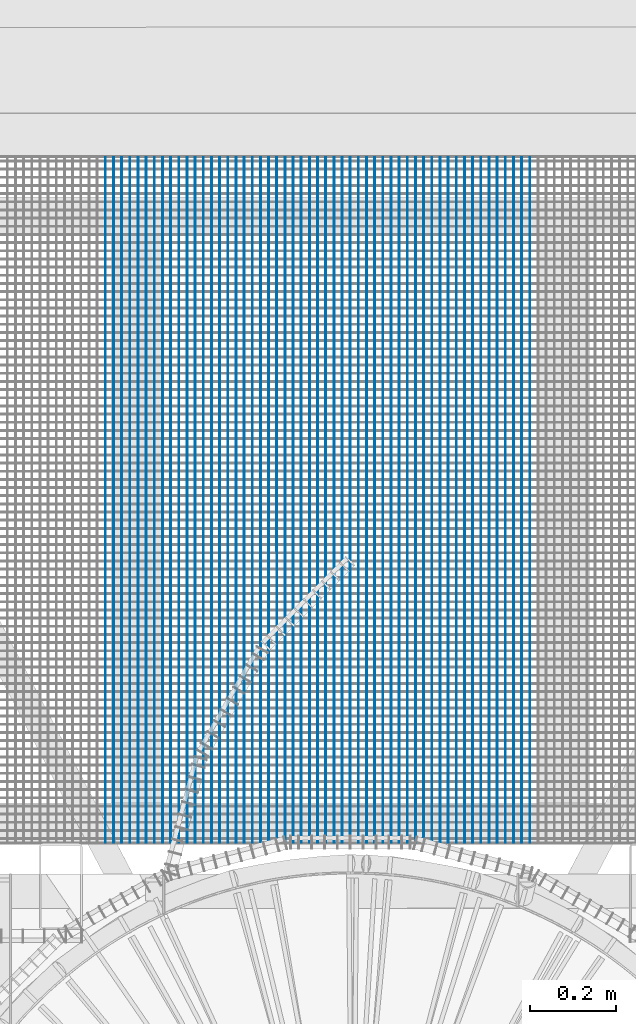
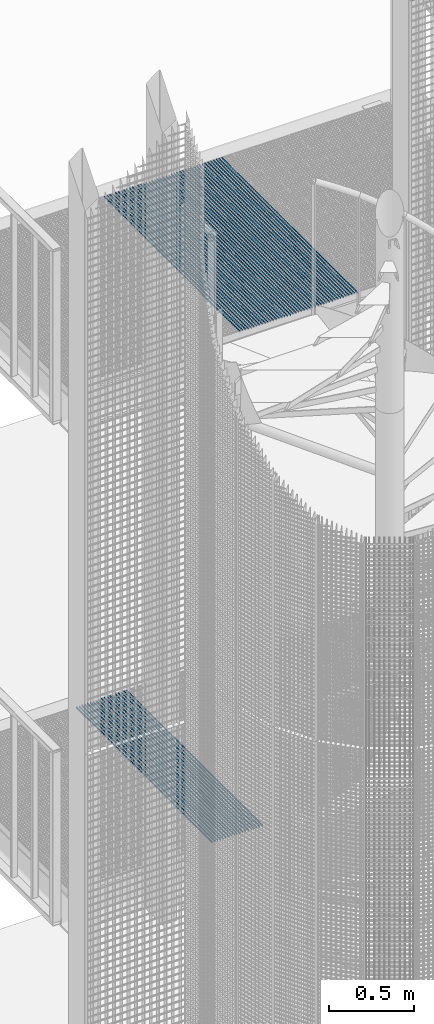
# One storey, part 82 of 1148: 62 beams, 2 elements without a shape of their own.
"""IFC2X3 building model written with IfcOpenShell, lengths in millimetres."""

from ifc_helpers import new_model, si_unit, frame, origin_with_axes, origin_2d_with_axis, place, context, subcontext, project, spatial, rectangle, extrude, material, type_object, element, aggregate, save


model = new_model("IFC2X3")

# Units and contexts
model_context = context("Model", 3, precision=1e-05, world=origin_with_axes())
body_context = subcontext(model_context, "Body", "Model", "MODEL_VIEW")
ifc_project = project(units=[si_unit("LENGTHUNIT", "METRE", prefix="MILLI"), si_unit("AREAUNIT", "SQUARE_METRE"), si_unit("VOLUMEUNIT", "CUBIC_METRE"), si_unit("MASSUNIT", "GRAM", prefix="KILO"), si_unit("TIMEUNIT", "SECOND"), si_unit("PLANEANGLEUNIT", "RADIAN"), si_unit("SOLIDANGLEUNIT", "STERADIAN"), si_unit("THERMODYNAMICTEMPERATUREUNIT", "DEGREE_CELSIUS"), si_unit("LUMINOUSINTENSITYUNIT", "LUMEN")], contexts=[model_context])

# Site, building, storey
site_placement = place(None, origin_with_axes())
site = spatial("IfcSite", under=ifc_project, at=site_placement, Name="Undefined", CompositionType="ELEMENT")
building_placement = place(site_placement, origin_with_axes())
building = spatial("IfcBuilding", under=site, at=building_placement, Name="Undefined", CompositionType="ELEMENT")
storey_placement = place(building_placement, origin_with_axes())
storey = spatial("IfcBuildingStorey", under=building, at=storey_placement, Name="Undefined", CompositionType="ELEMENT", Elevation=0.0)

# Assembly, beams
assembly_1_placement = place(storey_placement, origin_with_axes())
assembly_1 = element("IfcElementAssembly", 1, at=assembly_1_placement, inside=storey, Name="BORDURE", AssemblyPlace="NOTDEFINED", PredefinedType="NOTDEFINED")
ifc_material = material(Name="STEEL/S235JR")
beam_type = type_object("IfcBeamType", Name="PL2*10", PredefinedType="NOTDEFINED")
beam_1_placement = place(assembly_1_placement, frame((-379.92457526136, 1102.00044866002, 13685.0), z_axis=(0.0, 0.0, 1.0), x_axis=(-4.50599999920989e-06, 0.999999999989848, 0.0)))
beam_1 = element("IfcBeam", 2, at=beam_1_placement, type_object=beam_type, material=ifc_material, Name="ENTRETOISE", context=body_context, shape_type="SweptSolid", body=[
    extrude(rectangle(XDim=2.0, YDim=10.0, at=origin_2d_with_axis()), frame((1596.0000000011, -1.35186458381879e-18, -7.27595761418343e-12), z_axis=(-1.0, 0.0, 0.0), x_axis=(0.0, -1.0, 0.0)), (0.0, 0.0, 1.0), 1596.0),
])
beam_2_placement = place(assembly_1_placement, frame((-360.924575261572, 1102.00054217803, 13685.0), z_axis=(0.0, 0.0, 1.0), x_axis=(-4.50599999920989e-06, 0.999999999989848, 0.0)))
beam_2 = element("IfcBeam", 3, at=beam_2_placement, type_object=beam_type, material=ifc_material, Name="ENTRETOISE", context=body_context, shape_type="SweptSolid", body=[
    extrude(rectangle(XDim=2.0, YDim=10.0, at=origin_2d_with_axis()), frame((1596.0000000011, -1.35186458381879e-18, -7.27595761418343e-12), z_axis=(-1.0, 0.0, 0.0), x_axis=(0.0, -1.0, 0.0)), (0.0, 0.0, 1.0), 1596.0),
])
beam_3_placement = place(assembly_1_placement, frame((-341.924575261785, 1102.00063569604, 13685.0), z_axis=(0.0, 0.0, 1.0), x_axis=(-4.50599999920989e-06, 0.999999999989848, 0.0)))
beam_3 = element("IfcBeam", 4, at=beam_3_placement, type_object=beam_type, material=ifc_material, Name="ENTRETOISE", context=body_context, shape_type="SweptSolid", body=[
    extrude(rectangle(XDim=2.0, YDim=10.0, at=origin_2d_with_axis()), frame((1596.0000000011, -1.35186458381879e-18, -7.27595761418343e-12), z_axis=(-1.0, 0.0, 0.0), x_axis=(0.0, -1.0, 0.0)), (0.0, 0.0, 1.0), 1596.0),
])
beam_4_placement = place(assembly_1_placement, frame((-322.924575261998, 1102.00072921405, 13685.0), z_axis=(0.0, 0.0, 1.0), x_axis=(-4.50599999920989e-06, 0.999999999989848, 0.0)))
beam_4 = element("IfcBeam", 5, at=beam_4_placement, type_object=beam_type, material=ifc_material, Name="ENTRETOISE", context=body_context, shape_type="SweptSolid", body=[
    extrude(rectangle(XDim=2.0, YDim=10.0, at=origin_2d_with_axis()), frame((1596.0000000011, -1.35186458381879e-18, -7.27595761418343e-12), z_axis=(-1.0, 0.0, 0.0), x_axis=(0.0, -1.0, 0.0)), (0.0, 0.0, 1.0), 1596.0),
])
beam_5_placement = place(assembly_1_placement, frame((-303.924575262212, 1102.00082273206, 13685.0), z_axis=(0.0, 0.0, 1.0), x_axis=(-4.50599999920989e-06, 0.999999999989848, 0.0)))
beam_5 = element("IfcBeam", 6, at=beam_5_placement, type_object=beam_type, material=ifc_material, Name="ENTRETOISE", context=body_context, shape_type="SweptSolid", body=[
    extrude(rectangle(XDim=2.0, YDim=10.0, at=origin_2d_with_axis()), frame((1596.0000000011, -1.35186458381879e-18, -7.27595761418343e-12), z_axis=(-1.0, 0.0, 0.0), x_axis=(0.0, -1.0, 0.0)), (0.0, 0.0, 1.0), 1596.0),
])
beam_6_placement = place(assembly_1_placement, frame((-284.924575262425, 1102.00091625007, 13685.0), z_axis=(0.0, 0.0, 1.0), x_axis=(-4.50599999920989e-06, 0.999999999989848, 0.0)))
beam_6 = element("IfcBeam", 7, at=beam_6_placement, type_object=beam_type, material=ifc_material, Name="ENTRETOISE", context=body_context, shape_type="SweptSolid", body=[
    extrude(rectangle(XDim=2.0, YDim=10.0, at=origin_2d_with_axis()), frame((1596.0000000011, -1.35186458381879e-18, -7.27595761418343e-12), z_axis=(-1.0, 0.0, 0.0), x_axis=(0.0, -1.0, 0.0)), (0.0, 0.0, 1.0), 1596.0),
])
beam_7_placement = place(assembly_1_placement, frame((-265.924575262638, 1102.00100976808, 13685.0), z_axis=(0.0, 0.0, 1.0), x_axis=(-4.50599999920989e-06, 0.999999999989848, 0.0)))
beam_7 = element("IfcBeam", 8, at=beam_7_placement, type_object=beam_type, material=ifc_material, Name="ENTRETOISE", context=body_context, shape_type="SweptSolid", body=[
    extrude(rectangle(XDim=2.0, YDim=10.0, at=origin_2d_with_axis()), frame((1596.0000000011, -1.35186458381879e-18, -7.27595761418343e-12), z_axis=(-1.0, 0.0, 0.0), x_axis=(0.0, -1.0, 0.0)), (0.0, 0.0, 1.0), 1596.0),
])
beam_8_placement = place(assembly_1_placement, frame((-246.924575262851, 1102.00110328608, 13685.0), z_axis=(0.0, 0.0, 1.0), x_axis=(-4.50599999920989e-06, 0.999999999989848, 0.0)))
beam_8 = element("IfcBeam", 9, at=beam_8_placement, type_object=beam_type, material=ifc_material, Name="ENTRETOISE", context=body_context, shape_type="SweptSolid", body=[
    extrude(rectangle(XDim=2.0, YDim=10.0, at=origin_2d_with_axis()), frame((1596.0000000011, -1.35186458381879e-18, -7.27595761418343e-12), z_axis=(-1.0, 0.0, 0.0), x_axis=(0.0, -1.0, 0.0)), (0.0, 0.0, 1.0), 1596.0),
])
beam_9_placement = place(assembly_1_placement, frame((-227.924575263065, 1102.00119680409, 13685.0), z_axis=(0.0, 0.0, 1.0), x_axis=(-4.50599999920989e-06, 0.999999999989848, 0.0)))
beam_9 = element("IfcBeam", 10, at=beam_9_placement, type_object=beam_type, material=ifc_material, Name="ENTRETOISE", context=body_context, shape_type="SweptSolid", body=[
    extrude(rectangle(XDim=2.0, YDim=10.0, at=origin_2d_with_axis()), frame((1596.0000000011, -1.35186458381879e-18, -7.27595761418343e-12), z_axis=(-1.0, 0.0, 0.0), x_axis=(0.0, -1.0, 0.0)), (0.0, 0.0, 1.0), 1596.0),
])
beam_10_placement = place(assembly_1_placement, frame((-208.924575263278, 1102.0012903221, 13685.0), z_axis=(0.0, 0.0, 1.0), x_axis=(-4.50599999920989e-06, 0.999999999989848, 0.0)))
beam_10 = element("IfcBeam", 11, at=beam_10_placement, type_object=beam_type, material=ifc_material, Name="ENTRETOISE", context=body_context, shape_type="SweptSolid", body=[
    extrude(rectangle(XDim=2.0, YDim=10.0, at=origin_2d_with_axis()), frame((1596.0000000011, -1.35186458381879e-18, -7.27595761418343e-12), z_axis=(-1.0, 0.0, 0.0), x_axis=(0.0, -1.0, 0.0)), (0.0, 0.0, 1.0), 1596.0),
])
beam_11_placement = place(assembly_1_placement, frame((-189.924575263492, 1102.00138384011, 13685.0), z_axis=(0.0, 0.0, 1.0), x_axis=(-4.50599999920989e-06, 0.999999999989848, 0.0)))
beam_11 = element("IfcBeam", 12, at=beam_11_placement, type_object=beam_type, material=ifc_material, Name="ENTRETOISE", context=body_context, shape_type="SweptSolid", body=[
    extrude(rectangle(XDim=2.0, YDim=10.0, at=origin_2d_with_axis()), frame((1596.0000000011, -1.35186458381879e-18, -7.27595761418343e-12), z_axis=(-1.0, 0.0, 0.0), x_axis=(0.0, -1.0, 0.0)), (0.0, 0.0, 1.0), 1596.0),
])
beam_12_placement = place(assembly_1_placement, frame((-170.924575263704, 1102.00147735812, 13685.0), z_axis=(0.0, 0.0, 1.0), x_axis=(-4.50599999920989e-06, 0.999999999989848, 0.0)))
beam_12 = element("IfcBeam", 13, at=beam_12_placement, type_object=beam_type, material=ifc_material, Name="ENTRETOISE", context=body_context, shape_type="SweptSolid", body=[
    extrude(rectangle(XDim=2.0, YDim=10.0, at=origin_2d_with_axis()), frame((1596.0000000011, -1.35186458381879e-18, -7.27595761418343e-12), z_axis=(-1.0, 0.0, 0.0), x_axis=(0.0, -1.0, 0.0)), (0.0, 0.0, 1.0), 1596.0),
])
beam_13_placement = place(assembly_1_placement, frame((-151.924575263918, 1102.00157087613, 13685.0), z_axis=(0.0, 0.0, 1.0), x_axis=(-4.50599999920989e-06, 0.999999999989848, 0.0)))
beam_13 = element("IfcBeam", 14, at=beam_13_placement, type_object=beam_type, material=ifc_material, Name="ENTRETOISE", context=body_context, shape_type="SweptSolid", body=[
    extrude(rectangle(XDim=2.0, YDim=10.0, at=origin_2d_with_axis()), frame((1596.0000000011, -1.35186458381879e-18, -7.27595761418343e-12), z_axis=(-1.0, 0.0, 0.0), x_axis=(0.0, -1.0, 0.0)), (0.0, 0.0, 1.0), 1596.0),
])
beam_14_placement = place(assembly_1_placement, frame((-132.92457526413, 1102.00166439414, 13685.0), z_axis=(0.0, 0.0, 1.0), x_axis=(-4.50599999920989e-06, 0.999999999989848, 0.0)))
beam_14 = element("IfcBeam", 15, at=beam_14_placement, type_object=beam_type, material=ifc_material, Name="ENTRETOISE", context=body_context, shape_type="SweptSolid", body=[
    extrude(rectangle(XDim=2.0, YDim=10.0, at=origin_2d_with_axis()), frame((1596.0000000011, -1.35186458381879e-18, -7.27595761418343e-12), z_axis=(-1.0, 0.0, 0.0), x_axis=(0.0, -1.0, 0.0)), (0.0, 0.0, 1.0), 1596.0),
])
beam_15_placement = place(assembly_1_placement, frame((-113.924575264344, 1102.00175791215, 13685.0), z_axis=(0.0, 0.0, 1.0), x_axis=(-4.50599999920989e-06, 0.999999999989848, 0.0)))
beam_15 = element("IfcBeam", 16, at=beam_15_placement, type_object=beam_type, material=ifc_material, Name="ENTRETOISE", context=body_context, shape_type="SweptSolid", body=[
    extrude(rectangle(XDim=2.0, YDim=10.0, at=origin_2d_with_axis()), frame((1596.0000000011, -1.35186458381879e-18, -7.27595761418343e-12), z_axis=(-1.0, 0.0, 0.0), x_axis=(0.0, -1.0, 0.0)), (0.0, 0.0, 1.0), 1596.0),
])
beam_16_placement = place(assembly_1_placement, frame((-94.9245752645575, 1102.00185143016, 13685.0), z_axis=(0.0, 0.0, 1.0), x_axis=(-4.50599999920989e-06, 0.999999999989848, 0.0)))
beam_16 = element("IfcBeam", 17, at=beam_16_placement, type_object=beam_type, material=ifc_material, Name="ENTRETOISE", context=body_context, shape_type="SweptSolid", body=[
    extrude(rectangle(XDim=2.0, YDim=10.0, at=origin_2d_with_axis()), frame((1596.0000000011, -1.35186458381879e-18, -7.27595761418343e-12), z_axis=(-1.0, 0.0, 0.0), x_axis=(0.0, -1.0, 0.0)), (0.0, 0.0, 1.0), 1596.0),
])
beam_17_placement = place(assembly_1_placement, frame((-75.9245752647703, 1102.00194494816, 13685.0), z_axis=(0.0, 0.0, 1.0), x_axis=(-4.50599999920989e-06, 0.999999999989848, 0.0)))
beam_17 = element("IfcBeam", 18, at=beam_17_placement, type_object=beam_type, material=ifc_material, Name="ENTRETOISE", context=body_context, shape_type="SweptSolid", body=[
    extrude(rectangle(XDim=2.0, YDim=10.0, at=origin_2d_with_axis()), frame((1596.0000000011, -1.35186458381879e-18, -7.27595761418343e-12), z_axis=(-1.0, 0.0, 0.0), x_axis=(0.0, -1.0, 0.0)), (0.0, 0.0, 1.0), 1596.0),
])
beam_18_placement = place(assembly_1_placement, frame((-56.924575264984, 1102.00203846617, 13685.0), z_axis=(0.0, 0.0, 1.0), x_axis=(-4.50599999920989e-06, 0.999999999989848, 0.0)))
beam_18 = element("IfcBeam", 19, at=beam_18_placement, type_object=beam_type, material=ifc_material, Name="ENTRETOISE", context=body_context, shape_type="SweptSolid", body=[
    extrude(rectangle(XDim=2.0, YDim=10.0, at=origin_2d_with_axis()), frame((1596.0000000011, -1.35186458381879e-18, -7.27595761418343e-12), z_axis=(-1.0, 0.0, 0.0), x_axis=(0.0, -1.0, 0.0)), (0.0, 0.0, 1.0), 1596.0),
])
beam_19_placement = place(assembly_1_placement, frame((-37.9245752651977, 1102.00213198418, 13685.0), z_axis=(0.0, 0.0, 1.0), x_axis=(-4.50599999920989e-06, 0.999999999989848, 0.0)))
beam_19 = element("IfcBeam", 20, at=beam_19_placement, type_object=beam_type, material=ifc_material, Name="ENTRETOISE", context=body_context, shape_type="SweptSolid", body=[
    extrude(rectangle(XDim=2.0, YDim=10.0, at=origin_2d_with_axis()), frame((1596.0000000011, -1.35186458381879e-18, -7.27595761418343e-12), z_axis=(-1.0, 0.0, 0.0), x_axis=(0.0, -1.0, 0.0)), (0.0, 0.0, 1.0), 1596.0),
])
beam_20_placement = place(assembly_1_placement, frame((-18.9245752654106, 1102.00222550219, 13685.0), z_axis=(0.0, 0.0, 1.0), x_axis=(-4.50599999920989e-06, 0.999999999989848, 0.0)))
beam_20 = element("IfcBeam", 21, at=beam_20_placement, type_object=beam_type, material=ifc_material, Name="ENTRETOISE", context=body_context, shape_type="SweptSolid", body=[
    extrude(rectangle(XDim=2.0, YDim=10.0, at=origin_2d_with_axis()), frame((1596.0000000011, -1.35186458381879e-18, -7.27595761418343e-12), z_axis=(-1.0, 0.0, 0.0), x_axis=(0.0, -1.0, 0.0)), (0.0, 0.0, 1.0), 1596.0),
])
beam_21_placement = place(assembly_1_placement, frame((0.075424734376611, 1102.0023190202, 13685.0), z_axis=(0.0, 0.0, 1.0), x_axis=(-4.50599999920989e-06, 0.999999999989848, 0.0)))
beam_21 = element("IfcBeam", 22, at=beam_21_placement, type_object=beam_type, material=ifc_material, Name="ENTRETOISE", context=body_context, shape_type="SweptSolid", body=[
    extrude(rectangle(XDim=2.0, YDim=10.0, at=origin_2d_with_axis()), frame((1596.0000000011, -1.35186458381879e-18, -7.27595761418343e-12), z_axis=(-1.0, 0.0, 0.0), x_axis=(0.0, -1.0, 0.0)), (0.0, 0.0, 1.0), 1596.0),
])
beam_22_placement = place(assembly_1_placement, frame((19.0754247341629, 1102.00241253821, 13685.0), z_axis=(0.0, 0.0, 1.0), x_axis=(-4.50599999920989e-06, 0.999999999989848, 0.0)))
beam_22 = element("IfcBeam", 23, at=beam_22_placement, type_object=beam_type, material=ifc_material, Name="ENTRETOISE", context=body_context, shape_type="SweptSolid", body=[
    extrude(rectangle(XDim=2.0, YDim=10.0, at=origin_2d_with_axis()), frame((1596.0000000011, -1.35186458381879e-18, -7.27595761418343e-12), z_axis=(-1.0, 0.0, 0.0), x_axis=(0.0, -1.0, 0.0)), (0.0, 0.0, 1.0), 1596.0),
])
beam_23_placement = place(assembly_1_placement, frame((38.0754247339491, 1102.00250605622, 13685.0), z_axis=(0.0, 0.0, 1.0), x_axis=(-4.50599999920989e-06, 0.999999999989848, 0.0)))
beam_23 = element("IfcBeam", 24, at=beam_23_placement, type_object=beam_type, material=ifc_material, Name="ENTRETOISE", context=body_context, shape_type="SweptSolid", body=[
    extrude(rectangle(XDim=2.0, YDim=10.0, at=origin_2d_with_axis()), frame((1596.0000000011, -1.35186458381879e-18, -7.27595761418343e-12), z_axis=(-1.0, 0.0, 0.0), x_axis=(0.0, -1.0, 0.0)), (0.0, 0.0, 1.0), 1596.0),
])
beam_24_placement = place(assembly_1_placement, frame((57.0754247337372, 1102.00259957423, 13685.0), z_axis=(0.0, 0.0, 1.0), x_axis=(-4.50599999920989e-06, 0.999999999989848, 0.0)))
beam_24 = element("IfcBeam", 25, at=beam_24_placement, type_object=beam_type, material=ifc_material, Name="ENTRETOISE", context=body_context, shape_type="SweptSolid", body=[
    extrude(rectangle(XDim=2.0, YDim=10.0, at=origin_2d_with_axis()), frame((1596.0000000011, -1.35186458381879e-18, -7.27595761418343e-12), z_axis=(-1.0, 0.0, 0.0), x_axis=(0.0, -1.0, 0.0)), (0.0, 0.0, 1.0), 1596.0),
])
beam_25_placement = place(assembly_1_placement, frame((76.0754247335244, 1102.00269309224, 13685.0), z_axis=(0.0, 0.0, 1.0), x_axis=(-4.50599999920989e-06, 0.999999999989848, 0.0)))
beam_25 = element("IfcBeam", 26, at=beam_25_placement, type_object=beam_type, material=ifc_material, Name="ENTRETOISE", context=body_context, shape_type="SweptSolid", body=[
    extrude(rectangle(XDim=2.0, YDim=10.0, at=origin_2d_with_axis()), frame((1596.0000000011, -1.35186458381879e-18, -7.27595761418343e-12), z_axis=(-1.0, 0.0, 0.0), x_axis=(0.0, -1.0, 0.0)), (0.0, 0.0, 1.0), 1596.0),
])
beam_26_placement = place(assembly_1_placement, frame((95.0754247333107, 1102.00278661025, 13685.0), z_axis=(0.0, 0.0, 1.0), x_axis=(-4.50599999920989e-06, 0.999999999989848, 0.0)))
beam_26 = element("IfcBeam", 27, at=beam_26_placement, type_object=beam_type, material=ifc_material, Name="ENTRETOISE", context=body_context, shape_type="SweptSolid", body=[
    extrude(rectangle(XDim=2.0, YDim=10.0, at=origin_2d_with_axis()), frame((1596.0000000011, -1.35186458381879e-18, -7.27595761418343e-12), z_axis=(-1.0, 0.0, 0.0), x_axis=(0.0, -1.0, 0.0)), (0.0, 0.0, 1.0), 1596.0),
])
beam_27_placement = place(assembly_1_placement, frame((114.075424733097, 1102.00288012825, 13685.0), z_axis=(0.0, 0.0, 1.0), x_axis=(-4.50599999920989e-06, 0.999999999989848, 0.0)))
beam_27 = element("IfcBeam", 28, at=beam_27_placement, type_object=beam_type, material=ifc_material, Name="ENTRETOISE", context=body_context, shape_type="SweptSolid", body=[
    extrude(rectangle(XDim=2.0, YDim=10.0, at=origin_2d_with_axis()), frame((1596.0000000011, -1.35186458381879e-18, -7.27595761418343e-12), z_axis=(-1.0, 0.0, 0.0), x_axis=(0.0, -1.0, 0.0)), (0.0, 0.0, 1.0), 1596.0),
])
beam_28_placement = place(assembly_1_placement, frame((133.075424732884, 1102.00297364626, 13685.0), z_axis=(0.0, 0.0, 1.0), x_axis=(-4.50599999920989e-06, 0.999999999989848, 0.0)))
beam_28 = element("IfcBeam", 29, at=beam_28_placement, type_object=beam_type, material=ifc_material, Name="ENTRETOISE", context=body_context, shape_type="SweptSolid", body=[
    extrude(rectangle(XDim=2.0, YDim=10.0, at=origin_2d_with_axis()), frame((1596.0000000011, -1.35186458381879e-18, -7.27595761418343e-12), z_axis=(-1.0, 0.0, 0.0), x_axis=(0.0, -1.0, 0.0)), (0.0, 0.0, 1.0), 1596.0),
])
beam_29_placement = place(assembly_1_placement, frame((152.07542473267, 1102.00306716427, 13685.0), z_axis=(0.0, 0.0, 1.0), x_axis=(-4.50599999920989e-06, 0.999999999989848, 0.0)))
beam_29 = element("IfcBeam", 30, at=beam_29_placement, type_object=beam_type, material=ifc_material, Name="ENTRETOISE", context=body_context, shape_type="SweptSolid", body=[
    extrude(rectangle(XDim=2.0, YDim=10.0, at=origin_2d_with_axis()), frame((1596.0000000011, -1.35186458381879e-18, -7.27595761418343e-12), z_axis=(-1.0, 0.0, 0.0), x_axis=(0.0, -1.0, 0.0)), (0.0, 0.0, 1.0), 1596.0),
])
beam_30_placement = place(assembly_1_placement, frame((171.075424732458, 1102.00316068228, 13685.0), z_axis=(0.0, 0.0, 1.0), x_axis=(-4.50599999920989e-06, 0.999999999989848, 0.0)))
beam_30 = element("IfcBeam", 31, at=beam_30_placement, type_object=beam_type, material=ifc_material, Name="ENTRETOISE", context=body_context, shape_type="SweptSolid", body=[
    extrude(rectangle(XDim=2.0, YDim=10.0, at=origin_2d_with_axis()), frame((1596.0000000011, -1.35186458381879e-18, -7.27595761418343e-12), z_axis=(-1.0, 0.0, 0.0), x_axis=(0.0, -1.0, 0.0)), (0.0, 0.0, 1.0), 1596.0),
])
beam_31_placement = place(assembly_1_placement, frame((190.075424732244, 1102.00325420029, 13685.0), z_axis=(0.0, 0.0, 1.0), x_axis=(-4.50599999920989e-06, 0.999999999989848, 0.0)))
beam_31 = element("IfcBeam", 32, at=beam_31_placement, type_object=beam_type, material=ifc_material, Name="ENTRETOISE", context=body_context, shape_type="SweptSolid", body=[
    extrude(rectangle(XDim=2.0, YDim=10.0, at=origin_2d_with_axis()), frame((1596.0000000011, -1.35186458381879e-18, -7.27595761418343e-12), z_axis=(-1.0, 0.0, 0.0), x_axis=(0.0, -1.0, 0.0)), (0.0, 0.0, 1.0), 1596.0),
])
beam_32_placement = place(assembly_1_placement, frame((209.075424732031, 1102.0033477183, 13685.0), z_axis=(0.0, 0.0, 1.0), x_axis=(-4.50599999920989e-06, 0.999999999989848, 0.0)))
beam_32 = element("IfcBeam", 33, at=beam_32_placement, type_object=beam_type, material=ifc_material, Name="ENTRETOISE", context=body_context, shape_type="SweptSolid", body=[
    extrude(rectangle(XDim=2.0, YDim=10.0, at=origin_2d_with_axis()), frame((1596.0000000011, -1.35186458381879e-18, -7.27595761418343e-12), z_axis=(-1.0, 0.0, 0.0), x_axis=(0.0, -1.0, 0.0)), (0.0, 0.0, 1.0), 1596.0),
])
beam_33_placement = place(assembly_1_placement, frame((228.075424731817, 1102.00344123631, 13685.0), z_axis=(0.0, 0.0, 1.0), x_axis=(-4.50599999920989e-06, 0.999999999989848, 0.0)))
beam_33 = element("IfcBeam", 34, at=beam_33_placement, type_object=beam_type, material=ifc_material, Name="ENTRETOISE", context=body_context, shape_type="SweptSolid", body=[
    extrude(rectangle(XDim=2.0, YDim=10.0, at=origin_2d_with_axis()), frame((1596.0000000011, -1.35186458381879e-18, -7.27595761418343e-12), z_axis=(-1.0, 0.0, 0.0), x_axis=(0.0, -1.0, 0.0)), (0.0, 0.0, 1.0), 1596.0),
])
beam_34_placement = place(assembly_1_placement, frame((247.075424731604, 1102.00353475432, 13685.0), z_axis=(0.0, 0.0, 1.0), x_axis=(-4.50599999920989e-06, 0.999999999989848, 0.0)))
beam_34 = element("IfcBeam", 35, at=beam_34_placement, type_object=beam_type, material=ifc_material, Name="ENTRETOISE", context=body_context, shape_type="SweptSolid", body=[
    extrude(rectangle(XDim=2.0, YDim=10.0, at=origin_2d_with_axis()), frame((1596.0000000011, -1.35186458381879e-18, -7.27595761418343e-12), z_axis=(-1.0, 0.0, 0.0), x_axis=(0.0, -1.0, 0.0)), (0.0, 0.0, 1.0), 1596.0),
])
beam_35_placement = place(assembly_1_placement, frame((266.075424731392, 1102.00362827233, 13685.0), z_axis=(0.0, 0.0, 1.0), x_axis=(-4.50599999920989e-06, 0.999999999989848, 0.0)))
beam_35 = element("IfcBeam", 36, at=beam_35_placement, type_object=beam_type, material=ifc_material, Name="ENTRETOISE", context=body_context, shape_type="SweptSolid", body=[
    extrude(rectangle(XDim=2.0, YDim=10.0, at=origin_2d_with_axis()), frame((1596.0000000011, -1.35186458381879e-18, -7.27595761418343e-12), z_axis=(-1.0, 0.0, 0.0), x_axis=(0.0, -1.0, 0.0)), (0.0, 0.0, 1.0), 1596.0),
])
beam_36_placement = place(assembly_1_placement, frame((285.075424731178, 1102.00372179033, 13685.0), z_axis=(0.0, 0.0, 1.0), x_axis=(-4.50599999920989e-06, 0.999999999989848, 0.0)))
beam_36 = element("IfcBeam", 37, at=beam_36_placement, type_object=beam_type, material=ifc_material, Name="ENTRETOISE", context=body_context, shape_type="SweptSolid", body=[
    extrude(rectangle(XDim=2.0, YDim=10.0, at=origin_2d_with_axis()), frame((1596.0000000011, -1.35186458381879e-18, -7.27595761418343e-12), z_axis=(-1.0, 0.0, 0.0), x_axis=(0.0, -1.0, 0.0)), (0.0, 0.0, 1.0), 1596.0),
])
beam_37_placement = place(assembly_1_placement, frame((304.075424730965, 1102.00381530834, 13685.0), z_axis=(0.0, 0.0, 1.0), x_axis=(-4.50599999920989e-06, 0.999999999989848, 0.0)))
beam_37 = element("IfcBeam", 38, at=beam_37_placement, type_object=beam_type, material=ifc_material, Name="ENTRETOISE", context=body_context, shape_type="SweptSolid", body=[
    extrude(rectangle(XDim=2.0, YDim=10.0, at=origin_2d_with_axis()), frame((1596.0000000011, -1.35186458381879e-18, -7.27595761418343e-12), z_axis=(-1.0, 0.0, 0.0), x_axis=(0.0, -1.0, 0.0)), (0.0, 0.0, 1.0), 1596.0),
])
beam_38_placement = place(assembly_1_placement, frame((323.075424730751, 1102.00390882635, 13685.0), z_axis=(0.0, 0.0, 1.0), x_axis=(-4.50599999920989e-06, 0.999999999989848, 0.0)))
beam_38 = element("IfcBeam", 39, at=beam_38_placement, type_object=beam_type, material=ifc_material, Name="ENTRETOISE", context=body_context, shape_type="SweptSolid", body=[
    extrude(rectangle(XDim=2.0, YDim=10.0, at=origin_2d_with_axis()), frame((1596.0000000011, -1.35186458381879e-18, -7.27595761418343e-12), z_axis=(-1.0, 0.0, 0.0), x_axis=(0.0, -1.0, 0.0)), (0.0, 0.0, 1.0), 1596.0),
])
beam_39_placement = place(assembly_1_placement, frame((342.075424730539, 1102.00400234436, 13685.0), z_axis=(0.0, 0.0, 1.0), x_axis=(-4.50599999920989e-06, 0.999999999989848, 0.0)))
beam_39 = element("IfcBeam", 40, at=beam_39_placement, type_object=beam_type, material=ifc_material, Name="ENTRETOISE", context=body_context, shape_type="SweptSolid", body=[
    extrude(rectangle(XDim=2.0, YDim=10.0, at=origin_2d_with_axis()), frame((1596.0000000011, -1.35186458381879e-18, -7.27595761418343e-12), z_axis=(-1.0, 0.0, 0.0), x_axis=(0.0, -1.0, 0.0)), (0.0, 0.0, 1.0), 1596.0),
])
beam_40_placement = place(assembly_1_placement, frame((361.075424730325, 1102.00409586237, 13685.0), z_axis=(0.0, 0.0, 1.0), x_axis=(-4.50599999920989e-06, 0.999999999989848, 0.0)))
beam_40 = element("IfcBeam", 41, at=beam_40_placement, type_object=beam_type, material=ifc_material, Name="ENTRETOISE", context=body_context, shape_type="SweptSolid", body=[
    extrude(rectangle(XDim=2.0, YDim=10.0, at=origin_2d_with_axis()), frame((1596.0000000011, -1.35186458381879e-18, -7.27595761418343e-12), z_axis=(-1.0, 0.0, 0.0), x_axis=(0.0, -1.0, 0.0)), (0.0, 0.0, 1.0), 1596.0),
])
beam_41_placement = place(assembly_1_placement, frame((380.075424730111, 1102.00418938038, 13685.0), z_axis=(0.0, 0.0, 1.0), x_axis=(-4.50599999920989e-06, 0.999999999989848, 0.0)))
beam_41 = element("IfcBeam", 42, at=beam_41_placement, type_object=beam_type, material=ifc_material, Name="ENTRETOISE", context=body_context, shape_type="SweptSolid", body=[
    extrude(rectangle(XDim=2.0, YDim=10.0, at=origin_2d_with_axis()), frame((1596.0000000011, -1.35186458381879e-18, -7.27595761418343e-12), z_axis=(-1.0, 0.0, 0.0), x_axis=(0.0, -1.0, 0.0)), (0.0, 0.0, 1.0), 1596.0),
])
beam_42_placement = place(assembly_1_placement, frame((399.075424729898, 1102.00428289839, 13685.0), z_axis=(0.0, 0.0, 1.0), x_axis=(-4.50599999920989e-06, 0.999999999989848, 0.0)))
beam_42 = element("IfcBeam", 43, at=beam_42_placement, type_object=beam_type, material=ifc_material, Name="ENTRETOISE", context=body_context, shape_type="SweptSolid", body=[
    extrude(rectangle(XDim=2.0, YDim=10.0, at=origin_2d_with_axis()), frame((1596.0000000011, -1.35186458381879e-18, -7.27595761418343e-12), z_axis=(-1.0, 0.0, 0.0), x_axis=(0.0, -1.0, 0.0)), (0.0, 0.0, 1.0), 1596.0),
])
beam_43_placement = place(assembly_1_placement, frame((418.075424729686, 1102.0043764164, 13685.0), z_axis=(0.0, 0.0, 1.0), x_axis=(-4.50599999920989e-06, 0.999999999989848, 0.0)))
beam_43 = element("IfcBeam", 44, at=beam_43_placement, type_object=beam_type, material=ifc_material, Name="ENTRETOISE", context=body_context, shape_type="SweptSolid", body=[
    extrude(rectangle(XDim=2.0, YDim=10.0, at=origin_2d_with_axis()), frame((1596.0000000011, -1.35186458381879e-18, -7.27595761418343e-12), z_axis=(-1.0, 0.0, 0.0), x_axis=(0.0, -1.0, 0.0)), (0.0, 0.0, 1.0), 1596.0),
])
aggregate(assembly_1, [beam_1, beam_2, beam_3, beam_4, beam_5, beam_6, beam_7, beam_8, beam_9, beam_10, beam_11, beam_12, beam_13, beam_14, beam_15, beam_16, beam_17, beam_18, beam_19, beam_20, beam_21, beam_22, beam_23, beam_24, beam_25, beam_26, beam_27, beam_28, beam_29, beam_30, beam_31, beam_32, beam_33, beam_34, beam_35, beam_36, beam_37, beam_38, beam_39, beam_40, beam_41, beam_42, beam_43])

assembly_2_placement = place(storey_placement, origin_with_axes())
assembly_2 = element("IfcElementAssembly", 45, at=assembly_2_placement, inside=storey, Name="BORDURE", AssemblyPlace="NOTDEFINED", PredefinedType="NOTDEFINED")
beam_44_placement = place(assembly_2_placement, frame((-569.924575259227, 1101.99951347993, 10085.0), z_axis=(0.0, 0.0, 1.0), x_axis=(-4.50599999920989e-06, 0.999999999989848, 0.0)))
beam_44 = element("IfcBeam", 46, at=beam_44_placement, type_object=beam_type, material=ifc_material, Name="ENTRETOISE", context=body_context, shape_type="SweptSolid", body=[
    extrude(rectangle(XDim=2.0, YDim=10.0, at=origin_2d_with_axis()), frame((1596.0000000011, -1.35186458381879e-18, -7.27595761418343e-12), z_axis=(-1.0, 0.0, 0.0), x_axis=(0.0, -1.0, 0.0)), (0.0, 0.0, 1.0), 1596.0),
])
beam_45_placement = place(assembly_2_placement, frame((-550.924575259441, 1101.99960699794, 10085.0), z_axis=(0.0, 0.0, 1.0), x_axis=(-4.50599999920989e-06, 0.999999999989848, 0.0)))
beam_45 = element("IfcBeam", 47, at=beam_45_placement, type_object=beam_type, material=ifc_material, Name="ENTRETOISE", context=body_context, shape_type="SweptSolid", body=[
    extrude(rectangle(XDim=2.0, YDim=10.0, at=origin_2d_with_axis()), frame((1596.0000000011, -1.35186458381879e-18, -7.27595761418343e-12), z_axis=(-1.0, 0.0, 0.0), x_axis=(0.0, -1.0, 0.0)), (0.0, 0.0, 1.0), 1596.0),
])
beam_46_placement = place(assembly_2_placement, frame((-531.924575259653, 1101.99970051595, 10085.0), z_axis=(0.0, 0.0, 1.0), x_axis=(-4.50599999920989e-06, 0.999999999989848, 0.0)))
beam_46 = element("IfcBeam", 48, at=beam_46_placement, type_object=beam_type, material=ifc_material, Name="ENTRETOISE", context=body_context, shape_type="SweptSolid", body=[
    extrude(rectangle(XDim=2.0, YDim=10.0, at=origin_2d_with_axis()), frame((1596.0000000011, -1.35186458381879e-18, -7.27595761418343e-12), z_axis=(-1.0, 0.0, 0.0), x_axis=(0.0, -1.0, 0.0)), (0.0, 0.0, 1.0), 1596.0),
])
beam_47_placement = place(assembly_2_placement, frame((-512.924575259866, 1101.99979403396, 10085.0), z_axis=(0.0, 0.0, 1.0), x_axis=(-4.50599999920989e-06, 0.999999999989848, 0.0)))
beam_47 = element("IfcBeam", 49, at=beam_47_placement, type_object=beam_type, material=ifc_material, Name="ENTRETOISE", context=body_context, shape_type="SweptSolid", body=[
    extrude(rectangle(XDim=2.0, YDim=10.0, at=origin_2d_with_axis()), frame((1596.0000000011, -1.35186458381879e-18, -7.27595761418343e-12), z_axis=(-1.0, 0.0, 0.0), x_axis=(0.0, -1.0, 0.0)), (0.0, 0.0, 1.0), 1596.0),
])
beam_48_placement = place(assembly_2_placement, frame((-493.92457526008, 1101.99988755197, 10085.0), z_axis=(0.0, 0.0, 1.0), x_axis=(-4.50599999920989e-06, 0.999999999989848, 0.0)))
beam_48 = element("IfcBeam", 50, at=beam_48_placement, type_object=beam_type, material=ifc_material, Name="ENTRETOISE", context=body_context, shape_type="SweptSolid", body=[
    extrude(rectangle(XDim=2.0, YDim=10.0, at=origin_2d_with_axis()), frame((1596.0000000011, -1.35186458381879e-18, -7.27595761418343e-12), z_axis=(-1.0, 0.0, 0.0), x_axis=(0.0, -1.0, 0.0)), (0.0, 0.0, 1.0), 1596.0),
])
beam_49_placement = place(assembly_2_placement, frame((-474.924575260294, 1101.99998106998, 10085.0), z_axis=(0.0, 0.0, 1.0), x_axis=(-4.50599999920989e-06, 0.999999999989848, 0.0)))
beam_49 = element("IfcBeam", 51, at=beam_49_placement, type_object=beam_type, material=ifc_material, Name="ENTRETOISE", context=body_context, shape_type="SweptSolid", body=[
    extrude(rectangle(XDim=2.0, YDim=10.0, at=origin_2d_with_axis()), frame((1596.0000000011, -1.35186458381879e-18, -7.27595761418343e-12), z_axis=(-1.0, 0.0, 0.0), x_axis=(0.0, -1.0, 0.0)), (0.0, 0.0, 1.0), 1596.0),
])
beam_50_placement = place(assembly_2_placement, frame((-455.924575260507, 1102.00007458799, 10085.0), z_axis=(0.0, 0.0, 1.0), x_axis=(-4.50599999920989e-06, 0.999999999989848, 0.0)))
beam_50 = element("IfcBeam", 52, at=beam_50_placement, type_object=beam_type, material=ifc_material, Name="ENTRETOISE", context=body_context, shape_type="SweptSolid", body=[
    extrude(rectangle(XDim=2.0, YDim=10.0, at=origin_2d_with_axis()), frame((1596.0000000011, -1.35186458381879e-18, -7.27595761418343e-12), z_axis=(-1.0, 0.0, 0.0), x_axis=(0.0, -1.0, 0.0)), (0.0, 0.0, 1.0), 1596.0),
])
beam_51_placement = place(assembly_2_placement, frame((-436.92457526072, 1102.00016810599, 10085.0), z_axis=(0.0, 0.0, 1.0), x_axis=(-4.50599999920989e-06, 0.999999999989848, 0.0)))
beam_51 = element("IfcBeam", 53, at=beam_51_placement, type_object=beam_type, material=ifc_material, Name="ENTRETOISE", context=body_context, shape_type="SweptSolid", body=[
    extrude(rectangle(XDim=2.0, YDim=10.0, at=origin_2d_with_axis()), frame((1596.0000000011, -1.35186458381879e-18, -7.27595761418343e-12), z_axis=(-1.0, 0.0, 0.0), x_axis=(0.0, -1.0, 0.0)), (0.0, 0.0, 1.0), 1596.0),
])
beam_52_placement = place(assembly_2_placement, frame((-417.924575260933, 1102.000261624, 10085.0), z_axis=(0.0, 0.0, 1.0), x_axis=(-4.50599999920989e-06, 0.999999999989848, 0.0)))
beam_52 = element("IfcBeam", 54, at=beam_52_placement, type_object=beam_type, material=ifc_material, Name="ENTRETOISE", context=body_context, shape_type="SweptSolid", body=[
    extrude(rectangle(XDim=2.0, YDim=10.0, at=origin_2d_with_axis()), frame((1596.0000000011, -1.35186458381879e-18, -7.27595761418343e-12), z_axis=(-1.0, 0.0, 0.0), x_axis=(0.0, -1.0, 0.0)), (0.0, 0.0, 1.0), 1596.0),
])
beam_53_placement = place(assembly_2_placement, frame((-398.924575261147, 1102.00035514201, 10085.0), z_axis=(0.0, 0.0, 1.0), x_axis=(-4.50599999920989e-06, 0.999999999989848, 0.0)))
beam_53 = element("IfcBeam", 55, at=beam_53_placement, type_object=beam_type, material=ifc_material, Name="ENTRETOISE", context=body_context, shape_type="SweptSolid", body=[
    extrude(rectangle(XDim=2.0, YDim=10.0, at=origin_2d_with_axis()), frame((1596.0000000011, -1.35186458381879e-18, -7.27595761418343e-12), z_axis=(-1.0, 0.0, 0.0), x_axis=(0.0, -1.0, 0.0)), (0.0, 0.0, 1.0), 1596.0),
])
beam_54_placement = place(assembly_2_placement, frame((-379.92457526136, 1102.00044866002, 10085.0), z_axis=(0.0, 0.0, 1.0), x_axis=(-4.50599999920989e-06, 0.999999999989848, 0.0)))
beam_54 = element("IfcBeam", 56, at=beam_54_placement, type_object=beam_type, material=ifc_material, Name="ENTRETOISE", context=body_context, shape_type="SweptSolid", body=[
    extrude(rectangle(XDim=2.0, YDim=10.0, at=origin_2d_with_axis()), frame((1596.0000000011, -1.35186458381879e-18, -7.27595761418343e-12), z_axis=(-1.0, 0.0, 0.0), x_axis=(0.0, -1.0, 0.0)), (0.0, 0.0, 1.0), 1596.0),
])
beam_55_placement = place(assembly_2_placement, frame((-360.924575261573, 1102.00054217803, 10085.0), z_axis=(0.0, 0.0, 1.0), x_axis=(-4.50599999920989e-06, 0.999999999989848, 0.0)))
beam_55 = element("IfcBeam", 57, at=beam_55_placement, type_object=beam_type, material=ifc_material, Name="ENTRETOISE", context=body_context, shape_type="SweptSolid", body=[
    extrude(rectangle(XDim=2.0, YDim=10.0, at=origin_2d_with_axis()), frame((1596.0000000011, -1.35186458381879e-18, -7.27595761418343e-12), z_axis=(-1.0, 0.0, 0.0), x_axis=(0.0, -1.0, 0.0)), (0.0, 0.0, 1.0), 1596.0),
])
beam_56_placement = place(assembly_2_placement, frame((-341.924575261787, 1102.00063569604, 10085.0), z_axis=(0.0, 0.0, 1.0), x_axis=(-4.50599999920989e-06, 0.999999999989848, 0.0)))
beam_56 = element("IfcBeam", 58, at=beam_56_placement, type_object=beam_type, material=ifc_material, Name="ENTRETOISE", context=body_context, shape_type="SweptSolid", body=[
    extrude(rectangle(XDim=2.0, YDim=10.0, at=origin_2d_with_axis()), frame((1596.0000000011, -1.35186458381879e-18, -7.27595761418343e-12), z_axis=(-1.0, 0.0, 0.0), x_axis=(0.0, -1.0, 0.0)), (0.0, 0.0, 1.0), 1596.0),
])
beam_57_placement = place(assembly_2_placement, frame((-322.924575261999, 1102.00072921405, 10085.0), z_axis=(0.0, 0.0, 1.0), x_axis=(-4.50599999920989e-06, 0.999999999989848, 0.0)))
beam_57 = element("IfcBeam", 59, at=beam_57_placement, type_object=beam_type, material=ifc_material, Name="ENTRETOISE", context=body_context, shape_type="SweptSolid", body=[
    extrude(rectangle(XDim=2.0, YDim=10.0, at=origin_2d_with_axis()), frame((1596.0000000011, -1.35186458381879e-18, -7.27595761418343e-12), z_axis=(-1.0, 0.0, 0.0), x_axis=(0.0, -1.0, 0.0)), (0.0, 0.0, 1.0), 1596.0),
])
beam_58_placement = place(assembly_2_placement, frame((-303.924575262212, 1102.00082273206, 10085.0), z_axis=(0.0, 0.0, 1.0), x_axis=(-4.50599999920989e-06, 0.999999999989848, 0.0)))
beam_58 = element("IfcBeam", 60, at=beam_58_placement, type_object=beam_type, material=ifc_material, Name="ENTRETOISE", context=body_context, shape_type="SweptSolid", body=[
    extrude(rectangle(XDim=2.0, YDim=10.0, at=origin_2d_with_axis()), frame((1596.0000000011, -1.35186458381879e-18, -7.27595761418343e-12), z_axis=(-1.0, 0.0, 0.0), x_axis=(0.0, -1.0, 0.0)), (0.0, 0.0, 1.0), 1596.0),
])
beam_59_placement = place(assembly_2_placement, frame((-284.924575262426, 1102.00091625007, 10085.0), z_axis=(0.0, 0.0, 1.0), x_axis=(-4.50599999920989e-06, 0.999999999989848, 0.0)))
beam_59 = element("IfcBeam", 61, at=beam_59_placement, type_object=beam_type, material=ifc_material, Name="ENTRETOISE", context=body_context, shape_type="SweptSolid", body=[
    extrude(rectangle(XDim=2.0, YDim=10.0, at=origin_2d_with_axis()), frame((1596.0000000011, -1.35186458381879e-18, -7.27595761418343e-12), z_axis=(-1.0, 0.0, 0.0), x_axis=(0.0, -1.0, 0.0)), (0.0, 0.0, 1.0), 1596.0),
])
beam_60_placement = place(assembly_2_placement, frame((-265.924575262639, 1102.00100976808, 10085.0), z_axis=(0.0, 0.0, 1.0), x_axis=(-4.50599999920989e-06, 0.999999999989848, 0.0)))
beam_60 = element("IfcBeam", 62, at=beam_60_placement, type_object=beam_type, material=ifc_material, Name="ENTRETOISE", context=body_context, shape_type="SweptSolid", body=[
    extrude(rectangle(XDim=2.0, YDim=10.0, at=origin_2d_with_axis()), frame((1596.0000000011, -1.35186458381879e-18, -7.27595761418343e-12), z_axis=(-1.0, 0.0, 0.0), x_axis=(0.0, -1.0, 0.0)), (0.0, 0.0, 1.0), 1596.0),
])
beam_61_placement = place(assembly_2_placement, frame((-246.924575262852, 1102.00110328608, 10085.0), z_axis=(0.0, 0.0, 1.0), x_axis=(-4.50599999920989e-06, 0.999999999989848, 0.0)))
beam_61 = element("IfcBeam", 63, at=beam_61_placement, type_object=beam_type, material=ifc_material, Name="ENTRETOISE", context=body_context, shape_type="SweptSolid", body=[
    extrude(rectangle(XDim=2.0, YDim=10.0, at=origin_2d_with_axis()), frame((1596.0000000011, -1.35186458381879e-18, -7.27595761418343e-12), z_axis=(-1.0, 0.0, 0.0), x_axis=(0.0, -1.0, 0.0)), (0.0, 0.0, 1.0), 1596.0),
])
beam_62_placement = place(assembly_2_placement, frame((-227.924575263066, 1102.00119680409, 10085.0), z_axis=(0.0, 0.0, 1.0), x_axis=(-4.50599999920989e-06, 0.999999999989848, 0.0)))
beam_62 = element("IfcBeam", 64, at=beam_62_placement, type_object=beam_type, material=ifc_material, Name="ENTRETOISE", context=body_context, shape_type="SweptSolid", body=[
    extrude(rectangle(XDim=2.0, YDim=10.0, at=origin_2d_with_axis()), frame((1596.0000000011, -1.35186458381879e-18, -7.27595761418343e-12), z_axis=(-1.0, 0.0, 0.0), x_axis=(0.0, -1.0, 0.0)), (0.0, 0.0, 1.0), 1596.0),
])
aggregate(assembly_2, [beam_44, beam_45, beam_46, beam_47, beam_48, beam_49, beam_50, beam_51, beam_52, beam_53, beam_54, beam_55, beam_56, beam_57, beam_58, beam_59, beam_60, beam_61, beam_62])

save(model, "model.ifc")
